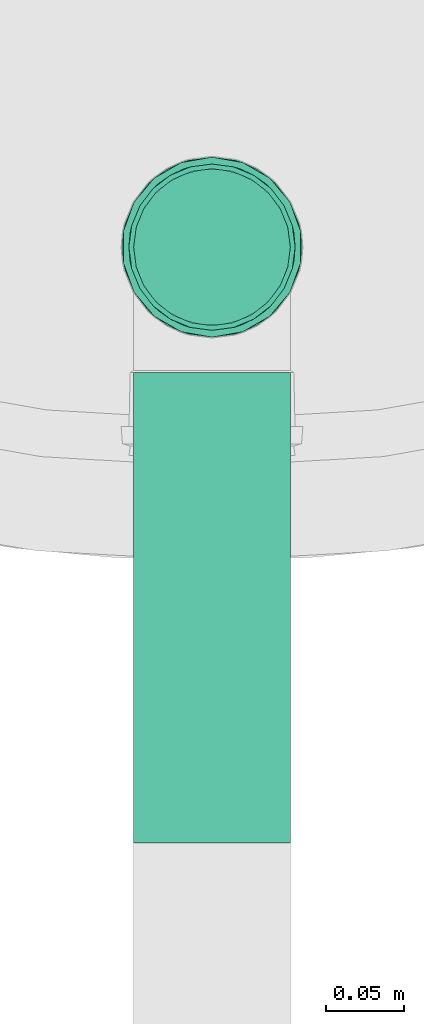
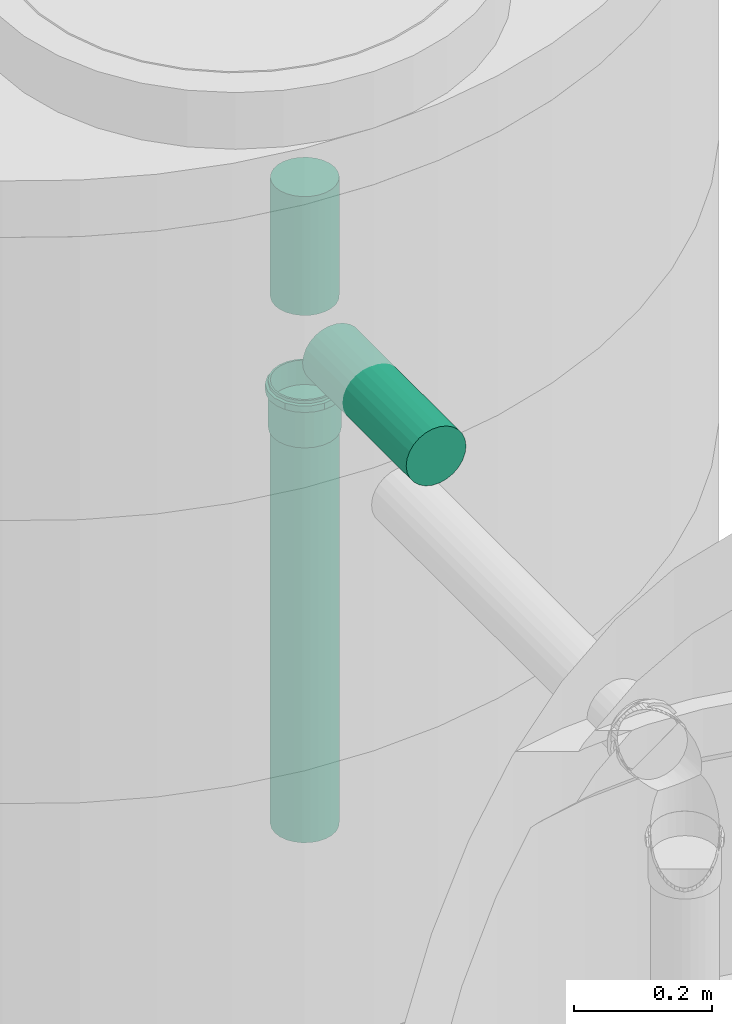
# One storey, part 179 of 589: 3 flow segments, 1 flow fitting.
"""IFC2X3 building model written with IfcOpenShell, lengths in millimetres."""

from ifc_helpers import new_model, entity, si_unit, converted_unit, derived_unit, direction, frame, origin, origin_2d_with_axis, place, context, subcontext, project, spatial, circle, extrude, faceted_brep, source, transform, mapped, material, type_object, type_shapes, element, save


model = new_model("IFC2X3")

# Units and contexts
model_context = context("Model", 3, precision=0.01, world=origin(), true_north=direction((6.123031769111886e-17, 1.0)))
body_context = subcontext(model_context, "Body", "Model", "MODEL_VIEW")
ifc_project = project(units=[si_unit("LENGTHUNIT", "METRE", prefix="MILLI"), si_unit("AREAUNIT", "SQUARE_METRE"), si_unit("VOLUMEUNIT", "CUBIC_METRE"), converted_unit("PLANEANGLEUNIT", "DEGREE", entity("IfcRatioMeasure", 0.017453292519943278), si_unit("PLANEANGLEUNIT", "RADIAN"), dimensions=[0, 0, 0, 0, 0, 0, 0]), si_unit("MASSUNIT", "GRAM", prefix="KILO"), derived_unit("MASSDENSITYUNIT", [(si_unit("MASSUNIT", "GRAM", prefix="KILO"), 1), (si_unit("LENGTHUNIT", "METRE"), -3)]), derived_unit("IONCONCENTRATIONUNIT", [(si_unit("MASSUNIT", "GRAM", prefix="KILO"), 1), (si_unit("LENGTHUNIT", "METRE"), -3)]), derived_unit("MOMENTOFINERTIAUNIT", [(si_unit("LENGTHUNIT", "METRE"), 4)]), si_unit("TIMEUNIT", "SECOND"), si_unit("FREQUENCYUNIT", "HERTZ"), si_unit("THERMODYNAMICTEMPERATUREUNIT", "DEGREE_CELSIUS"), derived_unit("THERMALTRANSMITTANCEUNIT", [(si_unit("MASSUNIT", "GRAM", prefix="KILO"), 1), (si_unit("THERMODYNAMICTEMPERATUREUNIT", "KELVIN"), -1), (si_unit("TIMEUNIT", "SECOND"), -3)]), derived_unit("THERMALCONDUCTANCEUNIT", [(si_unit("MASSUNIT", "GRAM", prefix="KILO"), 1), (si_unit("THERMODYNAMICTEMPERATUREUNIT", "KELVIN"), -1), (si_unit("TIMEUNIT", "SECOND"), -3), (si_unit("LENGTHUNIT", "METRE"), 1)]), derived_unit("VOLUMETRICFLOWRATEUNIT", [(si_unit("LENGTHUNIT", "METRE"), 3), (si_unit("TIMEUNIT", "SECOND"), -1)]), derived_unit("MASSFLOWRATEUNIT", [(si_unit("MASSUNIT", "GRAM", prefix="KILO"), 1), (si_unit("TIMEUNIT", "SECOND"), -1)]), derived_unit("ROTATIONALFREQUENCYUNIT", [(si_unit("TIMEUNIT", "SECOND"), -1)]), si_unit("ELECTRICCURRENTUNIT", "AMPERE"), si_unit("ELECTRICVOLTAGEUNIT", "VOLT"), si_unit("POWERUNIT", "WATT"), si_unit("FORCEUNIT", "NEWTON", prefix="KILO"), si_unit("ILLUMINANCEUNIT", "LUX"), si_unit("LUMINOUSFLUXUNIT", "LUMEN"), si_unit("LUMINOUSINTENSITYUNIT", "CANDELA"), derived_unit("USERDEFINED", [(si_unit("MASSUNIT", "GRAM", prefix="KILO"), -1), (si_unit("LENGTHUNIT", "METRE"), -2), (si_unit("TIMEUNIT", "SECOND"), 3), (si_unit("LUMINOUSFLUXUNIT", "LUMEN"), 1)]), derived_unit("USERDEFINED", [(si_unit("MASSUNIT", "GRAM", prefix="KILO"), 1), (si_unit("TIMEUNIT", "SECOND"), -3), (si_unit("LENGTHUNIT", "METRE"), 3), (si_unit("ELECTRICCURRENTUNIT", "AMPERE"), -2)]), derived_unit("SOUNDPOWERUNIT", [(si_unit("MASSUNIT", "GRAM", prefix="KILO"), 1), (si_unit("TIMEUNIT", "SECOND"), -3), (si_unit("LENGTHUNIT", "METRE"), 2)]), derived_unit("SOUNDPRESSUREUNIT", [(si_unit("MASSUNIT", "GRAM", prefix="KILO"), 1), (si_unit("LENGTHUNIT", "METRE"), -1), (si_unit("TIMEUNIT", "SECOND"), -2)]), derived_unit("LINEARVELOCITYUNIT", [(si_unit("LENGTHUNIT", "METRE"), 1), (si_unit("TIMEUNIT", "SECOND"), -1)]), si_unit("PRESSUREUNIT", "PASCAL"), derived_unit("USERDEFINED", [(si_unit("MASSUNIT", "GRAM", prefix="KILO"), 1), (si_unit("LENGTHUNIT", "METRE"), -2), (si_unit("TIMEUNIT", "SECOND"), -2)]), derived_unit("LINEARFORCEUNIT", [(si_unit("MASSUNIT", "GRAM", prefix="KILO"), 1), (si_unit("TIMEUNIT", "SECOND"), -2)]), derived_unit("PLANARFORCEUNIT", [(si_unit("MASSUNIT", "GRAM", prefix="KILO"), 1), (si_unit("LENGTHUNIT", "METRE"), -1), (si_unit("TIMEUNIT", "SECOND"), -2)]), derived_unit("SPECIFICHEATCAPACITYUNIT", [(si_unit("THERMODYNAMICTEMPERATUREUNIT", "KELVIN"), -1), (si_unit("LENGTHUNIT", "METRE"), 2), (si_unit("TIMEUNIT", "SECOND"), -2)]), derived_unit("HEATINGVALUEUNIT", [(si_unit("LENGTHUNIT", "METRE"), 2), (si_unit("TIMEUNIT", "SECOND"), -2)]), derived_unit("VAPORPERMEABILITYUNIT", [(si_unit("LENGTHUNIT", "METRE"), -1), (si_unit("TIMEUNIT", "SECOND"), 1)]), derived_unit("DYNAMICVISCOSITYUNIT", [(si_unit("MASSUNIT", "GRAM", prefix="KILO"), 1), (si_unit("TIMEUNIT", "SECOND"), -1), (si_unit("LENGTHUNIT", "METRE"), -1)]), derived_unit("THERMALEXPANSIONCOEFFICIENTUNIT", [(si_unit("THERMODYNAMICTEMPERATUREUNIT", "KELVIN"), -1)]), derived_unit("MODULUSOFELASTICITYUNIT", [(si_unit("MASSUNIT", "GRAM", prefix="KILO"), 1), (si_unit("LENGTHUNIT", "METRE"), -1), (si_unit("TIMEUNIT", "SECOND"), -2)]), derived_unit("ISOTHERMALMOISTURECAPACITYUNIT", [(si_unit("LENGTHUNIT", "METRE"), 3), (si_unit("MASSUNIT", "GRAM", prefix="KILO"), -1)]), derived_unit("MOISTUREDIFFUSIVITYUNIT", [(si_unit("TIMEUNIT", "SECOND"), -1), (si_unit("LENGTHUNIT", "METRE"), 2)])], contexts=[model_context])

# Site, building, storey
site_placement = place(None, origin())
site = spatial("IfcSite", under=ifc_project, at=site_placement, Name="Default", CompositionType="ELEMENT")
building_placement = place(site_placement, origin())
building = spatial("IfcBuilding", under=site, at=building_placement, CompositionType="ELEMENT")
storey_placement = place(building_placement, frame((0.0, 0.0, 100.0)))
storey = spatial("IfcBuildingStorey", under=building, at=storey_placement, Name="TÉRREO", CompositionType="ELEMENT", Elevation=100.0)

# Flow segments
pipe_segment_type = type_object("IfcPipeSegmentType", Name="Tipos de tubos:PVC Esgoto Série Normal", PredefinedType="NOTDEFINED")
flow_segment_1_placement = place(storey_placement, origin())
element("IfcFlowSegment", 1, at=flow_segment_1_placement, inside=storey, type_object=pipe_segment_type, Name="Tipos de tubos:PVC Esgoto Série Normal", ObjectType="Tipos de tubos:PVC Esgoto Série Normal", context=body_context, shape_type="SweptSolid", body=[
    extrude(circle(Radius=50.0, at=origin_2d_with_axis()), frame((20055.667196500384, -6894.0021263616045, -1449.0500000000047)), (0.0, 0.0, 1.0), 739.9999999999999),
])
flow_segment_2_placement = place(storey_placement, origin())
element("IfcFlowSegment", 2, at=flow_segment_2_placement, inside=storey, type_object=pipe_segment_type, Name="Tipos de tubos:PVC Esgoto Série Normal", ObjectType="Tipos de tubos:PVC Esgoto Série Normal", context=body_context, shape_type="SweptSolid", body=[
    extrude(circle(Radius=50.0, at=origin_2d_with_axis()), frame((20055.667196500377, -6894.002126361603, -517.5500000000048), z_axis=(0.0, 0.0, 1.0), x_axis=(-1.0, 0.0, 0.0)), (0.0, 0.0, 1.0), 209.99999999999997),
])
flow_segment_3_placement = place(storey_placement, origin())
element("IfcFlowSegment", 3, at=flow_segment_3_placement, inside=storey, type_object=pipe_segment_type, Name="Tipos de tubos:PVC Esgoto Série Normal", ObjectType="Tipos de tubos:PVC Esgoto Série Normal", context=body_context, shape_type="SweptSolid", body=[
    extrude(circle(Radius=50.0, at=origin_2d_with_axis()), frame((20055.667196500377, -7274.1021263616, -570.0), z_axis=(0.0, 1.0, 0.0), x_axis=(-1.0, 0.0, 0.0)), (0.0, 0.0, 1.0), 299.9999999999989),
])

# Flow fitting
ifc_material = material(Name="PVC Série Normal")
pipe_fitting_type = type_object("IfcPipeFittingType", Name="PVC Esgoto_Luva Simples para Conexão_Rodrigo MEP:Standard", PredefinedType="NOTDEFINED", material=ifc_material)
shared_shape = source(origin(), body_context, "Body", "Brep", [
    faceted_brep([(17.770000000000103, 28.72500000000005, -49.753159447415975), (17.770000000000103, 40.62328457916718, -40.62328457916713), (17.770000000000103, 26.524999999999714, -45.94264767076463), (17.770000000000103, 13.730350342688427, -51.242365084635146), (17.770000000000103, 14.86915414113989, -55.49243872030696), (17.770000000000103, 37.5120147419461, -37.51201474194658), (17.770000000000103, 49.75315944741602, -28.724999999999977), (17.770000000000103, 45.94264767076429, -26.52500000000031), (17.770000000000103, 51.24236508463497, -13.730350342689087), (17.770000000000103, 55.49243872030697, -14.869154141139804), (17.770000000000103, 53.05, 0.0), (17.770000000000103, 57.45, 0.0), (17.770000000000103, 51.242365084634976, 13.730350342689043), (17.770000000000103, 55.49243872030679, 14.869154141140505), (17.770000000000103, 45.942647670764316, 26.52500000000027), (17.770000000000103, 49.753159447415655, 28.725000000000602), (17.770000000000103, 37.51201474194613, 37.51201474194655), (17.770000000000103, 40.62328457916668, 40.62328457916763), (17.770000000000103, 26.524999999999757, 45.9426476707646), (17.770000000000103, 28.72499999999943, 49.75315944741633), (17.770000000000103, 13.730350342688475, 51.24236508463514), (17.770000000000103, 14.8691541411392, 55.49243872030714), (17.770000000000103, 0.0, 53.05), (17.770000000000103, 0.0, 57.45), (17.770000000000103, -13.730350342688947, 51.24236508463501), (17.770000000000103, -14.869154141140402, 55.49243872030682), (17.770000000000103, -26.52500000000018, 45.94264767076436), (17.770000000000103, -28.725000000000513, 49.753159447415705), (17.770000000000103, -37.51201474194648, 37.5120147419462), (17.770000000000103, -40.62328457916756, 40.62328457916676), (17.770000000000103, -45.94264767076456, 26.524999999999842), (17.770000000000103, -49.7531594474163, 28.724999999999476), (17.770000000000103, -55.49243872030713, 14.869154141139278), (17.770000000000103, -51.24236508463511, 13.730350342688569), (17.770000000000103, -57.45, 0.0), (17.770000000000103, -53.05, 0.0), (17.770000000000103, -55.49243872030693, -14.86915414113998), (17.770000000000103, -51.24236508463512, -13.73035034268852), (17.770000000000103, -49.75315944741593, -28.72500000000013), (17.770000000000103, -45.942647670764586, -26.5249999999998), (17.770000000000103, -40.62328457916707, -40.62328457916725), (17.770000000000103, -37.512014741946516, -37.51201474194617), (17.770000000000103, -28.724999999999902, -49.75315944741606), (17.770000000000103, -26.525000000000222, -45.94264767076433), (17.770000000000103, -14.869154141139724, -55.492438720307), (17.770000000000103, -13.730350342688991, -51.242365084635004), (17.770000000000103, 0.0, -57.45), (17.770000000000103, 0.0, -53.05), (6.570000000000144, -19.34638876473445, 53.16657713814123), (6.57000000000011, -44.00761900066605, 36.93009572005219), (6.5700000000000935, -48.99626263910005, 28.290173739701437), (6.5700000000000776, -53.98490627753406, 19.65025175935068), (6.570000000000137, -28.721697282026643, 49.75506612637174), (6.570000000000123, -36.36465814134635, 43.34258092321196), (6.57000000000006, -55.71745313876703, 9.825125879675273), (6.570000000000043, -57.45, 0.0), (6.570000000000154, -9.971080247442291, 56.57808814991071), (6.570000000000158, 9.98234714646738, 56.576101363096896), (6.570000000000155, 0.005633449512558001, 56.577094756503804), (6.570000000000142, 36.37328876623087, 43.33533831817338), (6.570000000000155, 19.356976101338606, 53.16272339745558), (6.570000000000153, 28.73160505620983, 49.749345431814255), (6.5700000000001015, 53.988818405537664, 19.639500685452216), (6.570000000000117, 49.00189544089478, 28.280415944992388), (6.570000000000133, 44.01497247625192, 36.921331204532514), (6.570000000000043, 57.45, 0.0), (6.569999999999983, 44.01497247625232, -36.92133120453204), (6.569999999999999, 49.0018954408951, -28.280415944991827), (6.570000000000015, 53.98881840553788, -19.63950068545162), (6.569999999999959, 28.731605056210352, -49.74934543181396), (6.569999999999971, 36.37328876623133, -43.335338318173), (6.569999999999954, 19.35697610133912, -53.16272339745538), (6.569999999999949, 9.982347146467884, -56.57610136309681), (6.569999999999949, -9.97108024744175, -56.578088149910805), (6.569999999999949, 0.005633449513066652, -56.577094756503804), (6.569999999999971, -36.364658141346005, -43.34258092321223), (6.56999999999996, -28.72169728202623, -49.755066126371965), (6.569999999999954, -19.346388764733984, -53.16657713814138), (6.57000000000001, -53.984906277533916, -19.650251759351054), (6.569999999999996, -48.99626263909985, -28.290173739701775), (6.569999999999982, -44.007619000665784, -36.93009572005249), (6.570000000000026, -55.717453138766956, -9.825125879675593), (83.52000000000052, 26.525000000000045, -45.942647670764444), (83.52000000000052, 37.512014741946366, -37.51201474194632), (83.52000000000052, 25.0, -43.301270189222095), (83.52000000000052, 12.940952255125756, -48.2962913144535), (83.52000000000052, 13.73035034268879, -51.242365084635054), (83.52000000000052, 35.35533905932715, -35.355339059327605), (83.52000000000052, 45.94264767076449, -26.524999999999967), (83.52000000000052, 43.30127018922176, -25.0), (83.52000000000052, 48.29629131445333, -12.940952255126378), (83.52000000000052, 51.24236508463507, -13.730350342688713), (83.52000000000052, 50.0, 0.0), (83.52000000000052, 53.05, 0.0), (83.52000000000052, 48.296291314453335, 12.940952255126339), (83.52000000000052, 51.2423650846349, 13.73035034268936), (83.52000000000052, 43.30127018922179, 25.0), (83.52000000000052, 45.942647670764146, 26.525000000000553), (83.52000000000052, 35.35533905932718, 35.35533905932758), (83.52000000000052, 37.512014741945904, 37.512014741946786), (83.52000000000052, 25.0, 43.301270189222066), (83.52000000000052, 26.52499999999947, 45.94264767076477), (83.52000000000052, 12.9409522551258, 48.29629131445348), (83.52000000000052, 13.730350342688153, 51.242365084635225), (83.52000000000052, 0.0, 50.0), (83.52000000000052, 0.0, 53.05), (83.52000000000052, -12.94095225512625, 48.296291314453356), (83.52000000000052, -13.730350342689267, 51.24236508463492), (83.52000000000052, -25.0, 43.30127018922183), (83.52000000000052, -26.525000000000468, 45.942647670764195), (83.52000000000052, -35.355339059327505, 35.35533905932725), (83.52000000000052, -37.512014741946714, 37.51201474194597), (83.52000000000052, -43.30127018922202, 25.0), (83.52000000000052, -45.942647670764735, 26.524999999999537), (83.52000000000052, -51.24236508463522, 13.730350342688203), (83.52000000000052, -48.29629131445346, 12.94095225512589), (83.52000000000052, -53.05, 0.0), (83.52000000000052, -50.0, 0.0), (83.52000000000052, -51.242365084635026, -13.730350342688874), (83.52000000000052, -48.29629131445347, -12.940952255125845), (83.52000000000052, -45.9426476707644, -26.525000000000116), (83.52000000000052, -43.301270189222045, -25.0), (83.52000000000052, -37.51201474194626, -37.51201474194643), (83.52000000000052, -35.35533905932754, -35.355339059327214), (83.52000000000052, -26.524999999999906, -45.94264767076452), (83.52000000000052, -25.0, -43.30127018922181), (83.52000000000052, -13.730350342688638, -51.2423650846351), (83.52000000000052, -12.94095225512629, -48.29629131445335), (83.52000000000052, 0.0, -53.05), (83.52000000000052, 0.0, -50.0), (0.0, 25.0, -43.301270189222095), (0.0, 37.512014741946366, -37.51201474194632), (0.0, 26.525000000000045, -45.942647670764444), (0.0, 12.940952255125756, -48.2962913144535), (0.0, 35.35533905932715, -35.355339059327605), (0.0, 45.94264767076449, -26.524999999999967), (0.0, 43.30127018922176, -25.0), (0.0, 48.29629131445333, -12.940952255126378), (0.0, 51.24236508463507, -13.730350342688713), (0.0, 50.0, 0.0), (0.0, 53.05, 0.0), (0.0, 48.296291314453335, 12.940952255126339), (0.0, 51.2423650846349, 13.73035034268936), (0.0, 43.30127018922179, 25.0), (0.0, 45.942647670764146, 26.525000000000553), (0.0, 35.35533905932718, 35.35533905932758), (0.0, 37.512014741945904, 37.512014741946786), (0.0, 25.0, 43.301270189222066), (0.0, 26.52499999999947, 45.94264767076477), (0.0, 12.9409522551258, 48.29629131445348), (0.0, 13.730350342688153, 51.242365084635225), (0.0, 0.0, 50.0), (0.0, 0.0, 53.05), (0.0, -12.94095225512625, 48.296291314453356), (0.0, -13.730350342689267, 51.24236508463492), (0.0, -25.0, 43.30127018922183), (0.0, -26.525000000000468, 45.942647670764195), (0.0, -35.355339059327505, 35.35533905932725), (0.0, -37.512014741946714, 37.51201474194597), (0.0, -43.30127018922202, 25.0), (0.0, -45.942647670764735, 26.524999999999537), (0.0, -51.24236508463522, 13.730350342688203), (0.0, -48.29629131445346, 12.94095225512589), (0.0, -53.05, 0.0), (0.0, -50.0, 0.0), (0.0, -51.242365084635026, -13.730350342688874), (0.0, -48.29629131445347, -12.940952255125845), (0.0, -45.9426476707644, -26.525000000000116), (0.0, -43.301270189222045, -25.0), (0.0, -37.51201474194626, -37.51201474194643), (0.0, -35.35533905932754, -35.355339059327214), (0.0, -26.524999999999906, -45.94264767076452), (0.0, -25.0, -43.30127018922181), (0.0, -13.730350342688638, -51.2423650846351), (0.0, -12.94095225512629, -48.29629131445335), (0.0, 0.0, -53.05), (0.0, 0.0, -50.0), (0.0, 13.73035034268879, -51.242365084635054), (5.370000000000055, -53.05, 0.0), (5.370000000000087, -49.85079898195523, 18.143878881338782), (5.370000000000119, -40.63905406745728, 34.09941032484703), (5.370000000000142, -26.525801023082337, 45.942185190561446), (5.3700000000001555, -9.213250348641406, 52.24383712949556), (5.370000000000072, 51.44992493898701, 9.073243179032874), (5.370000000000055, 53.05, 0.0), (5.370000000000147, 26.523397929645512, 45.943572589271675), (5.370000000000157, 9.210517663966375, 52.244318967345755), (5.3700000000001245, 40.63727040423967, 34.10153594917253), (5.370000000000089, 49.84984987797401, 18.146486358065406), (5.370000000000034, 51.4499249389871, -9.073243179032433), (5.370000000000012, 49.84984987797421, -18.146486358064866), (5.369999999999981, 40.63727040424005, -34.101535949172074), (5.36999999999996, 26.523397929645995, -45.9435725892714), (5.369999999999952, 9.21051766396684, -52.24431896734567), (5.369999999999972, -26.52580102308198, -45.94218519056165), (5.369999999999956, -9.213250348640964, -52.24383712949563), (5.369999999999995, -40.63905406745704, -34.099410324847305), (5.370000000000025, -49.8507989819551, -18.143878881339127), (50.0, -50.0, 0.0), (50.0, 50.0, 0.0)], [[[0, 1, 2]], [[0, 2, 3]], [[3, 4, 0]], [[2, 1, 5]], [[6, 5, 1]], [[5, 6, 7]], [[7, 6, 8]], [[9, 8, 6]], [[9, 10, 8]], [[10, 9, 11]], [[12, 10, 11]], [[11, 13, 12]], [[12, 13, 14]], [[15, 14, 13]], [[14, 15, 16]], [[16, 15, 17]], [[18, 16, 17]], [[17, 19, 18]], [[18, 19, 20]], [[21, 20, 19]], [[20, 21, 22]], [[22, 21, 23]], [[22, 23, 24]], [[24, 23, 25]], [[24, 25, 26]], [[27, 26, 25]], [[27, 28, 26]], [[28, 27, 29]], [[29, 30, 28]], [[31, 30, 29]], [[30, 31, 32]], [[32, 33, 30]], [[34, 33, 32]], [[34, 35, 33]], [[36, 35, 34]], [[36, 37, 35]], [[37, 36, 38]], [[38, 39, 37]], [[39, 38, 40]], [[39, 40, 41]], [[40, 42, 41]], [[41, 42, 43]], [[43, 42, 44]], [[44, 45, 43]], [[46, 45, 44]], [[4, 47, 46]], [[46, 47, 45]], [[4, 3, 47]], [[48, 27, 25]], [[31, 29, 49]], [[31, 49, 50, 51]], [[52, 53, 27]], [[32, 51, 54]], [[54, 55, 34]], [[54, 34, 32]], [[25, 56, 48]], [[49, 29, 53]], [[23, 57, 58, 56]], [[59, 19, 17]], [[27, 53, 29]], [[48, 52, 27]], [[31, 51, 32]], [[57, 23, 21]], [[60, 19, 61]], [[15, 62, 63, 64]], [[19, 60, 21]], [[15, 13, 62]], [[17, 64, 59]], [[57, 21, 60]], [[23, 56, 25]], [[15, 64, 17]], [[13, 65, 62]], [[13, 11, 65]], [[59, 61, 19]], [[65, 11, 9]], [[6, 1, 66]], [[6, 66, 67, 68]], [[69, 70, 0]], [[68, 65, 9]], [[71, 69, 0]], [[71, 0, 4]], [[4, 72, 71]], [[66, 1, 70]], [[46, 73, 74, 72]], [[75, 76, 42]], [[0, 70, 1]], [[75, 42, 40]], [[6, 68, 9]], [[73, 46, 44]], [[77, 42, 76]], [[38, 78, 79, 80]], [[42, 77, 44]], [[38, 36, 78]], [[40, 80, 75]], [[73, 44, 77]], [[46, 72, 4]], [[38, 80, 40]], [[81, 78, 36]], [[55, 81, 34]], [[34, 81, 36]], [[82, 83, 84]], [[82, 84, 85]], [[85, 86, 82]], [[84, 83, 87]], [[88, 87, 83]], [[87, 88, 89]], [[89, 88, 90]], [[91, 90, 88]], [[91, 92, 90]], [[92, 91, 93]], [[94, 92, 93]], [[93, 95, 94]], [[94, 95, 96]], [[97, 96, 95]], [[96, 97, 98]], [[98, 97, 99]], [[100, 98, 99]], [[99, 101, 100]], [[100, 101, 102]], [[103, 102, 101]], [[102, 103, 104]], [[104, 103, 105]], [[104, 105, 106]], [[106, 105, 107]], [[106, 107, 108]], [[109, 108, 107]], [[110, 108, 109]], [[110, 109, 111]], [[111, 112, 110]], [[113, 112, 111]], [[112, 113, 114]], [[114, 115, 112]], [[116, 115, 114]], [[116, 117, 115]], [[118, 117, 116]], [[118, 119, 117]], [[119, 118, 120]], [[120, 121, 119]], [[121, 120, 122]], [[121, 122, 123]], [[122, 124, 123]], [[125, 123, 124]], [[125, 124, 126]], [[126, 127, 125]], [[128, 127, 126]], [[86, 129, 128]], [[128, 129, 127]], [[86, 85, 129]], [[130, 131, 132]], [[133, 130, 132]], [[134, 131, 130]], [[131, 134, 135]], [[136, 135, 134]], [[137, 135, 136]], [[135, 137, 138]], [[137, 139, 138]], [[140, 138, 139]], [[140, 139, 141]], [[141, 142, 140]], [[143, 142, 141]], [[142, 143, 144]], [[145, 144, 143]], [[146, 144, 145]], [[146, 145, 147]], [[147, 148, 146]], [[149, 148, 147]], [[148, 149, 150]], [[151, 150, 149]], [[152, 150, 151]], [[153, 152, 151]], [[154, 152, 153]], [[155, 154, 153]], [[154, 155, 156]], [[156, 155, 157]], [[158, 156, 157]], [[157, 159, 158]], [[158, 159, 160]], [[161, 160, 159]], [[159, 162, 161]], [[161, 162, 163]], [[162, 164, 163]], [[163, 164, 165]], [[164, 166, 165]], [[167, 165, 166]], [[166, 168, 167]], [[169, 167, 168]], [[170, 169, 168]], [[170, 171, 169]], [[171, 170, 172]], [[173, 171, 172]], [[172, 174, 173]], [[173, 174, 175]], [[174, 176, 175]], [[176, 133, 177]], [[175, 176, 177]], [[132, 177, 133]], [[161, 178, 179]], [[158, 180, 181]], [[179, 180, 160]], [[181, 182, 154]], [[179, 160, 161]], [[161, 163, 178]], [[35, 116, 114, 33]], [[183, 184, 140]], [[181, 156, 158]], [[158, 160, 180]], [[181, 154, 156]], [[182, 152, 154]], [[183, 140, 142]], [[185, 150, 186]], [[187, 146, 185]], [[142, 188, 183]], [[187, 188, 144]], [[185, 148, 150]], [[150, 152, 186]], [[187, 144, 146]], [[146, 148, 185]], [[188, 142, 144]], [[186, 152, 182]], [[189, 190, 138]], [[131, 191, 192]], [[190, 191, 135]], [[192, 193, 177]], [[190, 135, 138]], [[184, 189, 140]], [[192, 132, 131]], [[131, 135, 191]], [[192, 177, 132]], [[193, 175, 177]], [[140, 189, 138]], [[194, 173, 195]], [[196, 169, 194]], [[165, 197, 178]], [[196, 197, 167]], [[165, 178, 163]], [[35, 37, 118, 116]], [[194, 171, 173]], [[173, 175, 195]], [[196, 167, 169]], [[169, 171, 194]], [[197, 165, 167]], [[195, 175, 193]], [[115, 117, 198, 164, 162]], [[155, 108, 110, 157]], [[110, 112, 159, 157]], [[112, 115, 162, 159]], [[106, 108, 155, 153]], [[153, 151, 104, 106]], [[102, 104, 151, 149]], [[102, 149, 147, 100]], [[141, 94, 96, 143]], [[96, 98, 145, 143]], [[98, 100, 147, 145]], [[92, 94, 141, 139, 199]], [[199, 139, 137, 90, 92]], [[87, 89, 136, 134]], [[134, 130, 84, 87]], [[89, 90, 137, 136]], [[85, 84, 130, 133]], [[133, 176, 129, 85]], [[127, 129, 176, 174]], [[127, 174, 172, 125]], [[166, 119, 121, 168]], [[121, 123, 170, 168]], [[123, 125, 172, 170]], [[117, 119, 166, 164, 198]], [[81, 178, 197]], [[190, 68, 67]], [[194, 75, 196]], [[193, 72, 74]], [[195, 77, 194]], [[79, 197, 196]], [[81, 55, 178]], [[192, 69, 71]], [[79, 78, 197]], [[194, 77, 76]], [[191, 66, 70]], [[80, 196, 75]], [[68, 190, 189]], [[74, 195, 193]], [[192, 71, 193]], [[190, 67, 191]], [[70, 192, 191]], [[65, 189, 184]], [[195, 73, 77]], [[193, 71, 72]], [[197, 78, 81]], [[191, 67, 66]], [[189, 65, 68]], [[196, 80, 79]], [[70, 69, 192]], [[194, 76, 75]], [[73, 195, 74]], [[65, 183, 62]], [[48, 56, 182]], [[58, 182, 56]], [[54, 51, 179]], [[59, 185, 61]], [[60, 186, 57]], [[53, 52, 181]], [[63, 187, 64]], [[58, 57, 186]], [[187, 63, 188]], [[186, 60, 185]], [[50, 49, 180]], [[185, 59, 187]], [[59, 64, 187]], [[182, 58, 186]], [[50, 179, 51]], [[54, 178, 55]], [[53, 180, 49]], [[63, 62, 188]], [[181, 48, 182]], [[183, 65, 184]], [[179, 50, 180]], [[178, 54, 179]], [[183, 188, 62]], [[180, 53, 181]], [[60, 61, 185]], [[48, 181, 52]], [[30, 33, 114, 113]], [[26, 28, 111, 109]], [[113, 111, 28, 30]], [[107, 24, 26, 109]], [[107, 105, 22, 24]], [[18, 20, 103, 101]], [[99, 16, 18, 101]], [[12, 14, 97, 95]], [[99, 97, 14, 16]], [[10, 12, 95, 93]], [[103, 20, 22, 105]], [[91, 8, 10, 93]], [[88, 7, 8, 91]], [[82, 86, 3, 2]], [[83, 5, 7, 88]], [[2, 5, 83, 82]], [[86, 128, 47, 3]], [[43, 45, 126, 124]], [[122, 41, 43, 124]], [[37, 39, 120, 118]], [[122, 120, 39, 41]], [[126, 45, 47, 128]]]),
])
type_shapes(pipe_fitting_type, [shared_shape])
flow_fitting_placement = place(storey_placement, frame((20055.667196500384, -6894.002126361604, -665.840000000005), z_axis=(1.0, 0.0, 0.0), x_axis=(0.0, 0.0, -1.0)))
element("IfcFlowFitting", 4, at=flow_fitting_placement, inside=storey, type_object=pipe_fitting_type, material=ifc_material, Name="PVC Esgoto_Luva Simples para Conexão_Rodrigo MEP:Standard", ObjectType="PVC Esgoto_Luva Simples para Conexão_Rodrigo MEP:Standard", context=body_context, shape_type="MappedRepresentation", body=[
    mapped(shared_shape, transform((0.0, 0.0, 0.0), scale=1.0)),
])

save(model, "model.ifc")
